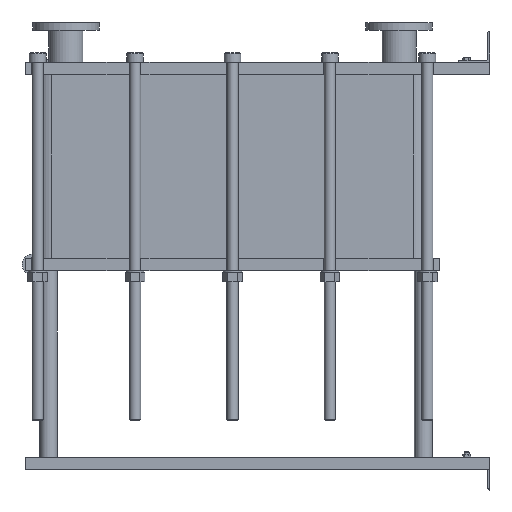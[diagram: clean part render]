
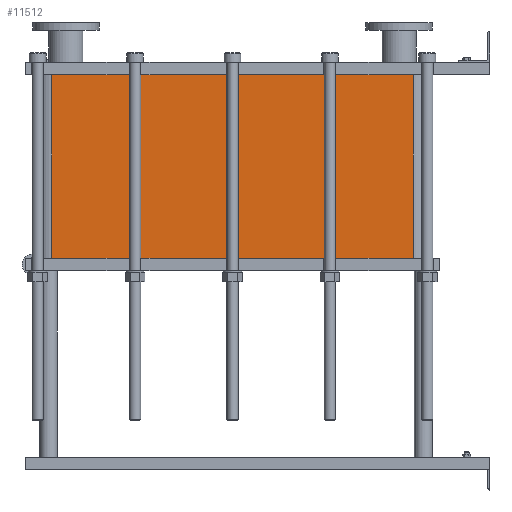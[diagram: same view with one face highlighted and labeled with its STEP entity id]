
A CAD part, left-side view. The second image highlights one B-rep face of the part: STEP entity #11512.
In plain terms, the highlighted planar face has unit normal (-1, 0, 0).
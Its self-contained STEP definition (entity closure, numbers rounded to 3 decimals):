
#1129=LINE('',#23232,#2102);
#1130=LINE('',#23236,#2103);
#1131=LINE('',#23238,#2104);
#1132=LINE('',#23239,#2105);
#2102=VECTOR('',#15887,10.);
#2103=VECTOR('',#15892,10.);
#2104=VECTOR('',#15893,10.);
#2105=VECTOR('',#15894,10.);
#3267=FACE_OUTER_BOUND('',#4093,.T.);
#4093=EDGE_LOOP('',(#10103,#10104,#10105,#10106));
#5642=VERTEX_POINT('',#23229);
#5643=VERTEX_POINT('',#23231);
#5644=VERTEX_POINT('',#23235);
#5645=VERTEX_POINT('',#23237);
#7159=EDGE_CURVE('',#5643,#5642,#1129,.T.);
#7161=EDGE_CURVE('',#5642,#5644,#1130,.T.);
#7162=EDGE_CURVE('',#5645,#5644,#1131,.T.);
#7163=EDGE_CURVE('',#5645,#5643,#1132,.T.);
#10103=ORIENTED_EDGE('',*,*,#7161,.T.);
#10104=ORIENTED_EDGE('',*,*,#7162,.F.);
#10105=ORIENTED_EDGE('',*,*,#7163,.T.);
#10106=ORIENTED_EDGE('',*,*,#7159,.T.);
#10857=PLANE('',#12751);
#11512=ADVANCED_FACE('',(#3267),#10857,.T.);
#12751=AXIS2_PLACEMENT_3D('',#23234,#15890,#15891);
#15887=DIRECTION('',(0.,0.,-1.));
#15890=DIRECTION('center_axis',(-1.,0.,0.));
#15891=DIRECTION('ref_axis',(0.,1.,0.));
#15892=DIRECTION('',(0.,-1.,0.));
#15893=DIRECTION('',(0.,0.,-1.));
#15894=DIRECTION('',(0.,1.,0.));
#23229=CARTESIAN_POINT('',(-200.,1414.,-593.4));
#23231=CARTESIAN_POINT('',(-200.,1414.,0.));
#23232=CARTESIAN_POINT('',(-200.,1414.,0.));
#23234=CARTESIAN_POINT('Origin',(-200.,248.,0.));
#23235=CARTESIAN_POINT('',(-200.,248.,-593.4));
#23236=CARTESIAN_POINT('',(-200.,539.5,-593.4));
#23237=CARTESIAN_POINT('',(-200.,248.,0.));
#23238=CARTESIAN_POINT('',(-200.,248.,0.));
#23239=CARTESIAN_POINT('',(-200.,248.,0.));
